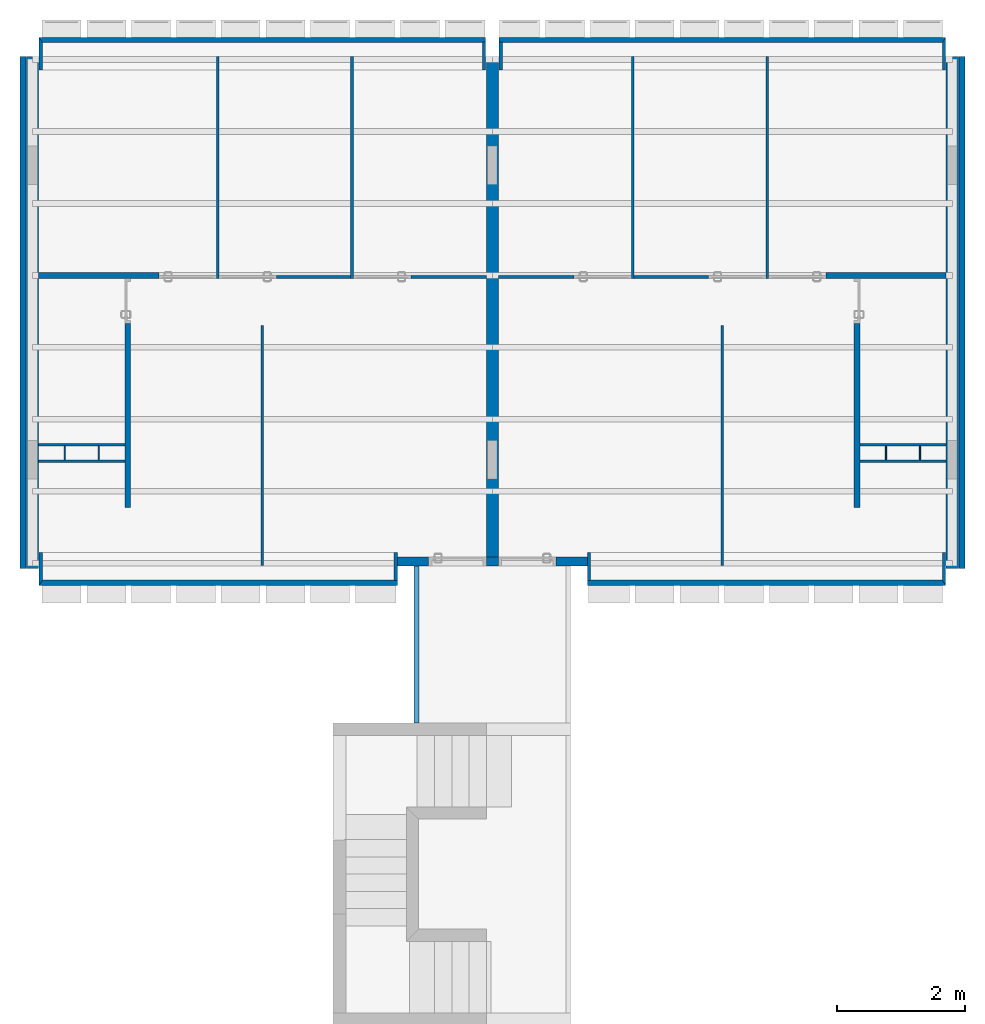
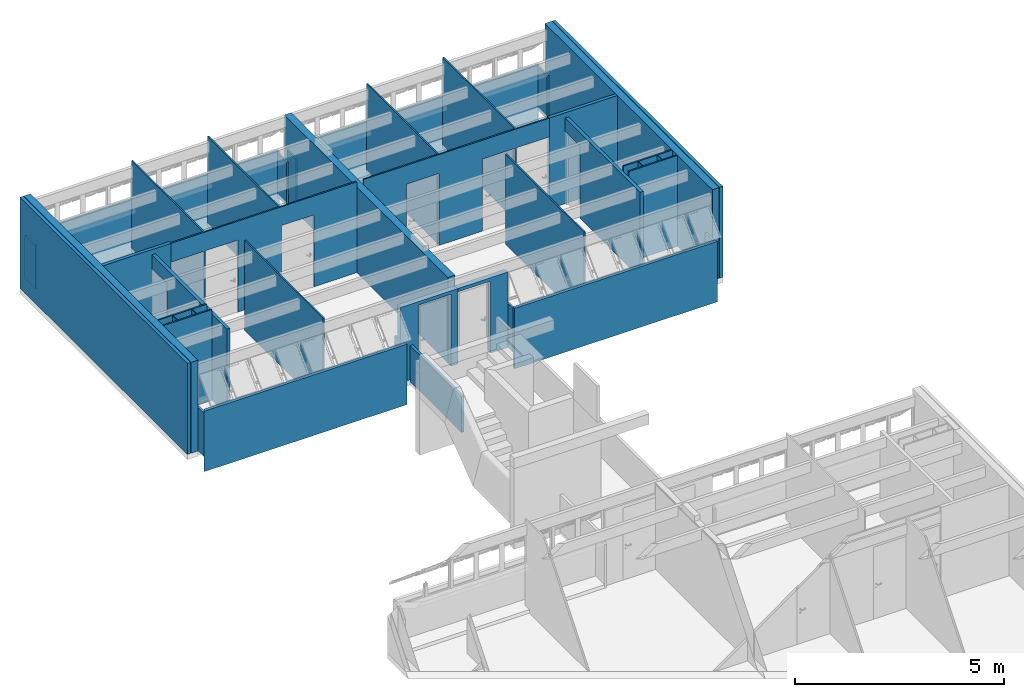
# One storey, part 3 of 22: 40 walls, 10 openings.
"""IFC2X3 building model written with IfcOpenShell, lengths in millimetres."""

from ifc_helpers import new_model, si_unit, direction, frame, frame_2d, origin_with_axes, origin_2d_with_axis, place, context, subcontext, project, spatial, polyline, rectangle, outline, extrude, material, layer, layer_set, layer_usage, type_object, element, save


model = new_model("IFC2X3")

# Units and contexts
model_context = context("Model", 3, precision=1e-05, world=origin_with_axes(), true_north=direction((0.0, 1.0)))
body_context = subcontext(model_context, "Body", "Model", "MODEL_VIEW")
ifc_project = project(units=[si_unit("LENGTHUNIT", "METRE", prefix="MILLI"), si_unit("AREAUNIT", "SQUARE_METRE"), si_unit("VOLUMEUNIT", "CUBIC_METRE"), si_unit("PLANEANGLEUNIT", "RADIAN"), si_unit("TIMEUNIT", "SECOND"), si_unit("MASSUNIT", "GRAM")], contexts=[model_context])

# Site, building, storey
site_placement = place(None, origin_with_axes())
site = spatial("IfcSite", under=ifc_project, at=site_placement, Name="Site", CompositionType="ELEMENT")
building_placement = place(site_placement, origin_with_axes())
building = spatial("IfcBuilding", under=site, at=building_placement, Name="Construção", CompositionType="COMPLEX")
storey_placement = place(building_placement, frame((0.0, 0.0, 2650.0), z_axis=(0.0, 0.0, 1.0), x_axis=(1.0, 0.0, 0.0)))
storey = spatial("IfcBuildingStorey", under=building, at=storey_placement, Name="Segundo Pavimento", CompositionType="COMPLEX", Elevation=2650.0)

# Walls
ifc_material_1 = material(Name="GENÉRICO - VEDAÇÃO EXTERNA")
ifc_layer_1 = layer(ifc_material_1, 190.0)
ifc_layer_set_1 = layer_set([ifc_layer_1], Name="GENÉRICO - VEDAÇÃO EXTERNA 190")
ifc_layer_usage_1 = layer_usage(ifc_layer_set_1, "AXIS2", "POSITIVE", 0.0)
wall_type_1 = type_object("IfcWallType", Name="GENÉRICO - VEDAÇÃO EXTERNA 190", PredefinedType="STANDARD", material=ifc_layer_set_1)
wall_1_placement = place(storey_placement, frame((7480.0, 18035.0, 0.0), z_axis=(0.0, 0.0, 1.0), x_axis=(0.0, 1.0, 0.0)))
element("IfcWallStandardCase", 1, at=wall_1_placement, inside=storey, type_object=wall_type_1, material=ifc_layer_usage_1, Name="CIRC2-PAREDE-029", context=body_context, shape_type="SweptSolid", body=[
    extrude(rectangle(XDim=7825.0, YDim=190.0, at=origin_2d_with_axis()), frame((3912.5, 95.0, 0.0), z_axis=(0.0, 0.0, 1.0), x_axis=(1.0, 0.0, 0.0)), (0.0, 0.0, 1.0), 2500.0),
])
ifc_layer_usage_2 = layer_usage(ifc_layer_set_1, "AXIS2", "POSITIVE", 0.0)
wall_2_placement = place(storey_placement, frame((290.0, 17860.0, 0.0), z_axis=(0.0, 0.0, 1.0), x_axis=(0.0, 1.0, 0.0)))
element("IfcWallStandardCase", 2, at=wall_2_placement, inside=storey, type_object=wall_type_1, material=ifc_layer_usage_2, Name="APTO7-PAREDE-013", context=body_context, shape_type="SweptSolid", body=[
    extrude(rectangle(XDim=8000.0, YDim=190.0, at=origin_2d_with_axis()), frame((4000.0, 95.0, 0.0), z_axis=(0.0, 0.0, 1.0), x_axis=(1.0, 0.0, 0.0)), (0.0, 0.0, 1.0), 2650.0),
])
ifc_layer_usage_3 = layer_usage(ifc_layer_set_1, "AXIS2", "POSITIVE", 0.0)
wall_3_placement = place(storey_placement, frame((14480.0, 25860.0, 0.0), z_axis=(0.0, 0.0, 1.0), x_axis=(0.0, -1.0, 0.0)))
element("IfcWallStandardCase", 3, at=wall_3_placement, inside=storey, type_object=wall_type_1, material=ifc_layer_usage_3, Name="APTO8-PAREDE-013", context=body_context, shape_type="SweptSolid", body=[
    extrude(rectangle(XDim=8000.0, YDim=190.0, at=frame_2d((0.0, 0.0), x_axis=(-1.0, 0.0))), frame((4000.0, 95.0, 0.0), z_axis=(0.0, 0.0, 1.0), x_axis=(1.0, 0.0, 0.0)), (0.0, 0.0, 1.0), 2650.0),
])
ifc_layer_2 = layer(ifc_material_1, 20.0)
ifc_layer_set_2 = layer_set([ifc_layer_2], Name="GENÉRICO - VEDAÇÃO EXTERNA 20")
ifc_layer_usage_4 = layer_usage(ifc_layer_set_2, "AXIS2", "POSITIVE", 0.0)
wall_type_2 = type_object("IfcWallType", Name="GENÉRICO - VEDAÇÃO EXTERNA 20", PredefinedType="STANDARD", material=ifc_layer_set_2)
wall_4_placement = place(storey_placement, frame((690.0, 19775.0, 0.0), z_axis=(0.0, 0.0, 1.0), x_axis=(0.0, -1.0, 0.0)))
element("IfcWallStandardCase", 4, at=wall_4_placement, inside=storey, type_object=wall_type_2, material=ifc_layer_usage_4, Name="APTO7-PAREDE-009", context=body_context, shape_type="SweptSolid", body=[
    extrude(rectangle(XDim=220.0, YDim=20.0, at=frame_2d((0.0, 0.0), x_axis=(-1.0, 0.0))), frame((110.0, 10.0, 0.0), z_axis=(0.0, 0.0, 1.0), x_axis=(1.0, 0.0, 0.0)), (0.0, 0.0, 1.0), 2650.0),
])
ifc_layer_usage_5 = layer_usage(ifc_layer_set_2, "AXIS2", "POSITIVE", 0.0)
wall_5_placement = place(storey_placement, frame((1240.0, 19555.0, 0.0), z_axis=(0.0, 0.0, 1.0), x_axis=(0.0, 1.0, 0.0)))
element("IfcWallStandardCase", 5, at=wall_5_placement, inside=storey, type_object=wall_type_2, material=ifc_layer_usage_5, Name="APTO7-PAREDE-008", context=body_context, shape_type="SweptSolid", body=[
    extrude(rectangle(XDim=220.0, YDim=20.0, at=origin_2d_with_axis()), frame((110.0, 10.0, 0.0), z_axis=(0.0, 0.0, 1.0), x_axis=(1.0, 0.0, 0.0)), (0.0, 0.0, 1.0), 2650.0),
])
ifc_layer_usage_6 = layer_usage(ifc_layer_set_2, "AXIS2", "POSITIVE", 0.0)
wall_6_placement = place(storey_placement, frame((14080.0, 19555.0, 0.0), z_axis=(0.0, 0.0, 1.0), x_axis=(0.0, 1.0, 0.0)))
element("IfcWallStandardCase", 6, at=wall_6_placement, inside=storey, type_object=wall_type_2, material=ifc_layer_usage_6, Name="APTO8-PAREDE-009", context=body_context, shape_type="SweptSolid", body=[
    extrude(rectangle(XDim=220.0, YDim=20.0, at=origin_2d_with_axis()), frame((110.0, 10.0, 0.0), z_axis=(0.0, 0.0, 1.0), x_axis=(1.0, 0.0, 0.0)), (0.0, 0.0, 1.0), 2650.0),
])
ifc_layer_usage_7 = layer_usage(ifc_layer_set_2, "AXIS2", "POSITIVE", 0.0)
wall_7_placement = place(storey_placement, frame((13530.0, 19775.0, 0.0), z_axis=(0.0, 0.0, 1.0), x_axis=(0.0, -1.0, 0.0)))
element("IfcWallStandardCase", 7, at=wall_7_placement, inside=storey, type_object=wall_type_2, material=ifc_layer_usage_7, Name="APTO8-PAREDE-008", context=body_context, shape_type="SweptSolid", body=[
    extrude(rectangle(XDim=220.0, YDim=20.0, at=frame_2d((0.0, 0.0), x_axis=(-1.0, 0.0))), frame((110.0, 10.0, 0.0), z_axis=(0.0, 0.0, 1.0), x_axis=(1.0, 0.0, 0.0)), (0.0, 0.0, 1.0), 2650.0),
])
ifc_layer_3 = layer(ifc_material_1, 75.0)
ifc_layer_set_3 = layer_set([ifc_layer_3], Name="GENÉRICO - VEDAÇÃO EXTERNA 75")
ifc_layer_usage_8 = layer_usage(ifc_layer_set_3, "AXIS2", "POSITIVE", 0.0)
wall_type_3 = type_object("IfcWallType", Name="GENÉRICO - VEDAÇÃO EXTERNA 75", PredefinedType="STANDARD", material=ifc_layer_set_3)
wall_8_placement = place(storey_placement, frame((6160.0, 17895.0, -50.0), z_axis=(0.0, 0.0, 1.0), x_axis=(0.0, -1.0, 0.0)))
element("IfcWallStandardCase", 8, at=wall_8_placement, inside=storey, type_object=wall_type_3, material=ifc_layer_usage_8, Name="CIRC2-PAREDE-028", context=body_context, shape_type="SweptSolid", body=[
    extrude(rectangle(XDim=2455.0, YDim=75.0, at=frame_2d((0.0, 0.0), x_axis=(-1.0, 0.0))), frame((1227.5, 37.5, 0.0), z_axis=(0.0, 0.0, 1.0), x_axis=(1.0, 0.0, 0.0)), (0.0, 0.0, 1.0), 1050.0),
])
ifc_layer_4 = layer(ifc_material_1, 40.0)
ifc_layer_set_4 = layer_set([ifc_layer_4], Name="GENÉRICO - VEDAÇÃO EXTERNA 40")
ifc_layer_usage_9 = layer_usage(ifc_layer_set_4, "AXIS2", "POSITIVE", 0.0)
wall_type_4 = type_object("IfcWallType", Name="GENÉRICO - VEDAÇÃO EXTERNA 40", PredefinedType="STANDARD", material=ifc_layer_set_4)
wall_9_placement = place(storey_placement, frame((3770.0, 21655.0, 0.0), z_axis=(0.0, 0.0, 1.0), x_axis=(0.0, -1.0, 0.0)))
element("IfcWallStandardCase", 9, at=wall_9_placement, inside=storey, type_object=wall_type_4, material=ifc_layer_usage_9, Name="APTO7-PAREDE-003", context=body_context, shape_type="SweptSolid", body=[
    extrude(rectangle(XDim=3750.0, YDim=40.0, at=frame_2d((0.0, 0.0), x_axis=(-1.0, 0.0))), frame((1875.0, 20.0, 0.0), z_axis=(0.0, 0.0, 1.0), x_axis=(1.0, 0.0, 0.0)), (0.0, 0.0, 1.0), 2620.0),
])
ifc_layer_usage_10 = layer_usage(ifc_layer_set_4, "AXIS2", "POSITIVE", 0.0)
wall_10_placement = place(storey_placement, frame((290.0, 19775.0, 0.0), z_axis=(0.0, 0.0, 1.0), x_axis=(1.0, 0.0, 0.0)))
element("IfcWallStandardCase", 10, at=wall_10_placement, inside=storey, type_object=wall_type_4, material=ifc_layer_usage_10, Name="APTO7-PAREDE-011", context=body_context, shape_type="SweptSolid", body=[
    extrude(rectangle(XDim=1350.0, YDim=40.0, at=origin_2d_with_axis()), frame((675.0, 20.0, 0.0), z_axis=(0.0, 0.0, 1.0), x_axis=(1.0, 0.0, 0.0)), (0.0, 0.0, 1.0), 2650.0),
])
ifc_layer_usage_11 = layer_usage(ifc_layer_set_4, "AXIS2", "POSITIVE", 0.0)
wall_11_placement = place(storey_placement, frame((5210.0, 22395.0, 0.0), z_axis=(0.0, 0.0, 1.0), x_axis=(0.0, 1.0, 0.0)))
element("IfcWallStandardCase", 11, at=wall_11_placement, inside=storey, type_object=wall_type_4, material=ifc_layer_usage_11, Name="APTO7-PAREDE-005", context=body_context, shape_type="SweptSolid", body=[
    extrude(rectangle(XDim=3465.0, YDim=40.0, at=origin_2d_with_axis()), frame((1732.5, 20.0, 0.0), z_axis=(0.0, 0.0, 1.0), x_axis=(1.0, 0.0, 0.0)), (0.0, 0.0, 1.0), 2620.0),
])
ifc_layer_usage_12 = layer_usage(ifc_layer_set_4, "AXIS2", "POSITIVE", 0.0)
wall_12_placement = place(storey_placement, frame((1640.0, 19555.0, 0.0), z_axis=(0.0, 0.0, 1.0), x_axis=(-1.0, 0.0, 0.0)))
element("IfcWallStandardCase", 12, at=wall_12_placement, inside=storey, type_object=wall_type_4, material=ifc_layer_usage_12, Name="APTO7-PAREDE-010", context=body_context, shape_type="SweptSolid", body=[
    extrude(rectangle(XDim=1350.0, YDim=40.0, at=frame_2d((0.0, 0.0), x_axis=(-1.0, 0.0))), frame((675.0, 20.0, 0.0), z_axis=(0.0, 0.0, 1.0), x_axis=(1.0, 0.0, 0.0)), (0.0, 0.0, 1.0), 2650.0),
])
ifc_layer_usage_13 = layer_usage(ifc_layer_set_4, "AXIS2", "POSITIVE", 0.0)
wall_13_placement = place(storey_placement, frame((3110.0, 22395.0, 0.0), z_axis=(0.0, 0.0, 1.0), x_axis=(0.0, 1.0, 0.0)))
element("IfcWallStandardCase", 13, at=wall_13_placement, inside=storey, type_object=wall_type_4, material=ifc_layer_usage_13, Name="APTO7-PAREDE-007", context=body_context, shape_type="SweptSolid", body=[
    extrude(rectangle(XDim=3465.0, YDim=40.0, at=origin_2d_with_axis()), frame((1732.5, 20.0, 0.0), z_axis=(0.0, 0.0, 1.0), x_axis=(1.0, 0.0, 0.0)), (0.0, 0.0, 1.0), 2650.0),
])

# Wall, openings
ifc_layer_usage_14 = layer_usage(ifc_layer_set_4, "AXIS2", "POSITIVE", 0.0)
wall_14_placement = place(storey_placement, frame((2170.0, 22394.78043329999, 0.0), z_axis=(0.0, 0.0, 1.0), x_axis=(0.9999999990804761, 4.288412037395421e-05, 0.0)))
wall_14 = element("IfcWallStandardCase", 14, at=wall_14_placement, inside=storey, type_object=wall_type_4, material=ifc_layer_usage_14, Name="APTO7-PAREDE-006", context=body_context, shape_type="SweptSolid", body=[
    extrude(outline(polyline([(-2560.000216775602, -20.00000000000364), (-2559.999359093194, 19.99999999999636), (2559.999787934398, 19.99999999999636), (2559.999787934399, -20.00000000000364), (-2560.000216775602, -20.00000000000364)])), frame((2560.000216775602, 20.0, 0.0), z_axis=(0.0, 0.0, 1.0), x_axis=(1.0, 0.0, 0.0)), (0.0, 0.0, 1.0), 2650.0),
])
opening_1_placement = place(wall_14_placement, frame((1840.000004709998, 40.0, 0.0), z_axis=(0.0, 0.0, 1.0), x_axis=(-1.0, 0.0, 0.0)))
element("IfcOpeningElement", 15, at=opening_1_placement, cuts=wall_14, ObjectType="Opening", context=body_context, shape_type="SweptSolid", body=[
    extrude(outline(polyline([(450.0, 1050.0), (450.0, -1050.0), (-450.0, -1050.0), (-450.0, 1050.0), (450.0, 1050.0)])), frame((450.0, 1.364242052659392e-12, 1050.000000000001), z_axis=(0.0, 1.0, 0.0), x_axis=(1.0, 0.0, 0.0)), (0.0, 0.0, 1.0), 120.0),
])
opening_2_placement = place(wall_14_placement, frame((900.0000047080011, 40.0, 0.0), z_axis=(0.0, 0.0, 1.0), x_axis=(-1.0, 0.0, 0.0)))
element("IfcOpeningElement", 16, at=opening_2_placement, cuts=wall_14, ObjectType="Opening", context=body_context, shape_type="SweptSolid", body=[
    extrude(outline(polyline([(-450.0, -1050.0), (-450.0, 1050.0), (450.0, 1050.0), (450.0, -1050.0), (-450.0, -1050.0)])), frame((450.0, 1.364242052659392e-12, 1050.000000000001), z_axis=(0.0, 1.0, 0.0), x_axis=(1.0, 0.0, 0.0)), (0.0, 0.0, 1.0), 120.0),
])
opening_3_placement = place(wall_14_placement, frame((3940.00000471, 40.0, 0.0), z_axis=(0.0, 0.0, 1.0), x_axis=(-1.0, 0.0, 0.0)))
element("IfcOpeningElement", 17, at=opening_3_placement, cuts=wall_14, ObjectType="Opening", context=body_context, shape_type="SweptSolid", body=[
    extrude(outline(polyline([(450.0, 1050.0), (450.0, -1050.0), (-450.0, -1050.0), (-450.0, 1050.0), (450.0, 1050.0)])), frame((450.0, 1.364242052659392e-12, 1050.000000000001), z_axis=(0.0, 1.0, 0.0), x_axis=(1.0, 0.0, 0.0)), (0.0, 0.0, 1.0), 120.0),
])

# Walls
ifc_layer_usage_15 = layer_usage(ifc_layer_set_4, "AXIS2", "POSITIVE", 0.0)
wall_15_placement = place(storey_placement, frame((11000.0, 17905.0, 0.0), z_axis=(0.0, 0.0, 1.0), x_axis=(0.0, 1.0, 0.0)))
element("IfcWallStandardCase", 18, at=wall_15_placement, inside=storey, type_object=wall_type_4, material=ifc_layer_usage_15, Name="APTO8-PAREDE-003", context=body_context, shape_type="SweptSolid", body=[
    extrude(rectangle(XDim=3750.0, YDim=40.0, at=origin_2d_with_axis()), frame((1875.0, 20.0, 0.0), z_axis=(0.0, 0.0, 1.0), x_axis=(1.0, 0.0, 0.0)), (0.0, 0.0, 1.0), 2620.0),
])
ifc_layer_usage_16 = layer_usage(ifc_layer_set_4, "AXIS2", "POSITIVE", 0.0)
wall_16_placement = place(storey_placement, frame((13130.0, 19775.0, 0.0), z_axis=(0.0, 0.0, 1.0), x_axis=(1.0, 0.0, 0.0)))
element("IfcWallStandardCase", 19, at=wall_16_placement, inside=storey, type_object=wall_type_4, material=ifc_layer_usage_16, Name="APTO8-PAREDE-011", context=body_context, shape_type="SweptSolid", body=[
    extrude(rectangle(XDim=1350.0, YDim=40.0, at=origin_2d_with_axis()), frame((675.0, 20.0, 0.0), z_axis=(0.0, 0.0, 1.0), x_axis=(1.0, 0.0, 0.0)), (0.0, 0.0, 1.0), 2650.0),
])
ifc_layer_usage_17 = layer_usage(ifc_layer_set_4, "AXIS2", "POSITIVE", 0.0)
wall_17_placement = place(storey_placement, frame((9560.0, 25860.0, 0.0), z_axis=(0.0, 0.0, 1.0), x_axis=(0.0, -1.0, 0.0)))
element("IfcWallStandardCase", 20, at=wall_17_placement, inside=storey, type_object=wall_type_4, material=ifc_layer_usage_17, Name="APTO8-PAREDE-005", context=body_context, shape_type="SweptSolid", body=[
    extrude(rectangle(XDim=3465.0, YDim=40.0, at=frame_2d((0.0, 0.0), x_axis=(-1.0, 0.0))), frame((1732.5, 20.0, 0.0), z_axis=(0.0, 0.0, 1.0), x_axis=(1.0, 0.0, 0.0)), (0.0, 0.0, 1.0), 2620.0),
])
ifc_layer_usage_18 = layer_usage(ifc_layer_set_4, "AXIS2", "POSITIVE", 0.0)
wall_18_placement = place(storey_placement, frame((14480.0, 19555.0, 0.0), z_axis=(0.0, 0.0, 1.0), x_axis=(-1.0, 0.0, 0.0)))
element("IfcWallStandardCase", 21, at=wall_18_placement, inside=storey, type_object=wall_type_4, material=ifc_layer_usage_18, Name="APTO8-PAREDE-010", context=body_context, shape_type="SweptSolid", body=[
    extrude(rectangle(XDim=1350.0, YDim=40.0, at=frame_2d((0.0, 0.0), x_axis=(-1.0, 0.0))), frame((675.0, 20.0, 0.0), z_axis=(0.0, 0.0, 1.0), x_axis=(1.0, 0.0, 0.0)), (0.0, 0.0, 1.0), 2650.0),
])
ifc_layer_usage_19 = layer_usage(ifc_layer_set_4, "AXIS2", "POSITIVE", 0.0)
wall_19_placement = place(storey_placement, frame((11660.0, 25860.0, 0.0), z_axis=(0.0, 0.0, 1.0), x_axis=(0.0, -1.0, 0.0)))
element("IfcWallStandardCase", 22, at=wall_19_placement, inside=storey, type_object=wall_type_4, material=ifc_layer_usage_19, Name="APTO8-PAREDE-007", context=body_context, shape_type="SweptSolid", body=[
    extrude(rectangle(XDim=3465.0, YDim=40.0, at=frame_2d((0.0, 0.0), x_axis=(-1.0, 0.0))), frame((1732.5, 20.0, 0.0), z_axis=(0.0, 0.0, 1.0), x_axis=(1.0, 0.0, 0.0)), (0.0, 0.0, 1.0), 2650.0),
])

# Wall, openings
ifc_layer_usage_20 = layer_usage(ifc_layer_set_4, "AXIS2", "POSITIVE", 0.0)
wall_20_placement = place(storey_placement, frame((7479.998284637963, 22395.00000007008, 0.0), z_axis=(0.0, 0.0, 1.0), x_axis=(0.9999999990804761, -4.288412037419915e-05, 0.0)))
wall_20 = element("IfcWallStandardCase", 23, at=wall_20_placement, inside=storey, type_object=wall_type_4, material=ifc_layer_usage_20, Name="APTO8-PAREDE-006", context=body_context, shape_type="SweptSolid", body=[
    extrude(outline(polyline([(-2560.001074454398, 19.99999999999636), (2559.999787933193, 19.99999999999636), (2560.000645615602, -20.00000000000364), (-2559.999359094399, -20.00000000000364), (-2560.001074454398, 19.99999999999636)])), frame((2560.001074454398, 20.00000000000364, 0.0), z_axis=(0.0, 0.0, 1.0), x_axis=(1.0, 0.0, 0.0)), (0.0, 0.0, 1.0), 2650.0),
])
opening_4_placement = place(wall_20_placement, frame((4180.00171536, 40.0, 0.0), z_axis=(0.0, 0.0, 1.0), x_axis=(-1.0, 0.0, 0.0)))
element("IfcOpeningElement", 24, at=opening_4_placement, cuts=wall_20, ObjectType="Opening", context=body_context, shape_type="SweptSolid", body=[
    extrude(outline(polyline([(-450.0, -1050.0), (-450.0, 1050.0), (450.0, 1050.0), (450.0, -1050.0), (-450.0, -1050.0)])), frame((450.0, 1.364242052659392e-12, 1050.000000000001), z_axis=(0.0, 1.0, 0.0), x_axis=(1.0, 0.0, 0.0)), (0.0, 0.0, 1.0), 120.0),
])
opening_5_placement = place(wall_20_placement, frame((5120.000862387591, 40.0, 0.0), z_axis=(0.0, 0.0, 1.0), x_axis=(-1.0, 0.0, 0.0)))
element("IfcOpeningElement", 25, at=opening_5_placement, cuts=wall_20, ObjectType="Opening", context=body_context, shape_type="SweptSolid", body=[
    extrude(outline(polyline([(450.0, 1050.0), (450.0, -1050.0), (-450.0, -1050.0), (-450.0, 1050.0), (450.0, 1050.0)])), frame((449.9991470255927, 0.0, 1050.0), z_axis=(0.0, 1.0, 0.0), x_axis=(1.0, 0.0, 0.0)), (0.0, 0.0, 1.0), 120.0),
])
opening_6_placement = place(wall_20_placement, frame((2080.001715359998, 40.0, 0.0), z_axis=(0.0, 0.0, 1.0), x_axis=(-1.0, 0.0, 0.0)))
element("IfcOpeningElement", 26, at=opening_6_placement, cuts=wall_20, ObjectType="Opening", context=body_context, shape_type="SweptSolid", body=[
    extrude(outline(polyline([(-450.0, -1050.0), (-450.0, 1050.0), (450.0, 1050.0), (450.0, -1050.0), (-450.0, -1050.0)])), frame((450.0, 1.364242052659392e-12, 1050.000000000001), z_axis=(0.0, 1.0, 0.0), x_axis=(1.0, 0.0, 0.0)), (0.0, 0.0, 1.0), 120.0),
])

# Walls
ifc_material_2 = material(Name="Concreto Armado Moldado in Loco - Estrutural")
ifc_layer_5 = layer(ifc_material_2, 80.0)
ifc_layer_set_5 = layer_set([ifc_layer_5], Name="Concreto Armado Moldado in Loco - Estrutural 80")
ifc_layer_usage_21 = layer_usage(ifc_layer_set_5, "AXIS2", "POSITIVE", 0.0)
wall_type_5 = type_object("IfcWallType", Name="Concreto Armado Moldado in Loco - Estrutural 80", PredefinedType="STANDARD", material=ifc_layer_set_5)
wall_21_placement = place(storey_placement, frame((300.0, 17595.0000013, -450.0), z_axis=(0.0, 0.0, 1.0), x_axis=(1.0, 0.0, 0.0)))
element("IfcWallStandardCase", 27, at=wall_21_placement, inside=storey, type_object=wall_type_5, material=ifc_layer_usage_21, Name="APTO7-PAREDE-017", context=body_context, shape_type="SweptSolid", body=[
    extrude(outline(polyline([(-2812.5, -40.0), (-2762.5, 40.0), (2787.5, 40.0), (2787.5, -40.0), (-2812.5, -40.0)])), frame((2812.5, 40.0, 0.0), z_axis=(0.0, 0.0, 1.0), x_axis=(1.0, 0.0, 0.0)), (0.0, 0.0, 1.0), 1765.0),
])
ifc_layer_usage_22 = layer_usage(ifc_layer_set_5, "AXIS2", "POSITIVE", 0.0)
wall_22_placement = place(storey_placement, frame((7280.0, 26160.0, -450.0), z_axis=(0.0, 0.0, 1.0), x_axis=(-1.0, 0.0, 0.0)))
element("IfcWallStandardCase", 28, at=wall_22_placement, inside=storey, type_object=wall_type_5, material=ifc_layer_usage_22, Name="APTO7-PAREDE-015", context=body_context, shape_type="SweptSolid", body=[
    extrude(outline(polyline([(3452.5, 40.0), (3502.5, -40.0), (-3477.5, -40.0), (-3477.5, 40.0), (3452.5, 40.0)])), frame((3477.5, 40.0, 0.0), z_axis=(0.0, 0.0, 1.0), x_axis=(1.0, 0.0, 0.0)), (0.0, 0.0, 1.0), 1765.0),
])
ifc_layer_usage_23 = layer_usage(ifc_layer_set_5, "AXIS2", "POSITIVE", 0.0)
wall_23_placement = place(storey_placement, frame((8870.0, 17595.0000013, -450.0), z_axis=(0.0, 0.0, 1.0), x_axis=(1.0, 0.0, 0.0)))
element("IfcWallStandardCase", 29, at=wall_23_placement, inside=storey, type_object=wall_type_5, material=ifc_layer_usage_23, Name="APTO8-PAREDE-017", context=body_context, shape_type="SweptSolid", body=[
    extrude(outline(polyline([(2762.5, 40.0), (2812.5, -40.0), (-2787.5, -40.0), (-2787.5, 40.0), (2762.5, 40.0)])), frame((2787.5, 40.0, 0.0), z_axis=(0.0, 0.0, 1.0), x_axis=(1.0, 0.0, 0.0)), (0.0, 0.0, 1.0), 1765.0),
])
ifc_layer_usage_24 = layer_usage(ifc_layer_set_5, "AXIS2", "POSITIVE", 0.0)
wall_24_placement = place(storey_placement, frame((14470.0, 26160.0, -450.0), z_axis=(0.0, 0.0, 1.0), x_axis=(-1.0, 0.0, 0.0)))
element("IfcWallStandardCase", 30, at=wall_24_placement, inside=storey, type_object=wall_type_5, material=ifc_layer_usage_24, Name="APTO8-PAREDE-015", context=body_context, shape_type="SweptSolid", body=[
    extrude(outline(polyline([(-3502.5, -40.0), (-3452.5, 40.0), (3477.5, 40.0), (3477.5, -40.0), (-3502.5, -40.0)])), frame((3502.5, 40.0, 0.0), z_axis=(0.0, 0.0, 1.0), x_axis=(1.0, 0.0, 0.0)), (0.0, 0.0, 1.0), 1765.0),
])
ifc_layer_6 = layer(ifc_material_1, 90.0)
ifc_layer_set_6 = layer_set([ifc_layer_6], Name="GENÉRICO - VEDAÇÃO EXTERNA 90")
ifc_layer_usage_25 = layer_usage(ifc_layer_set_6, "AXIS2", "POSITIVE", 0.0)
wall_type_6 = type_object("IfcWallType", Name="GENÉRICO - VEDAÇÃO EXTERNA 90", PredefinedType="STANDARD", material=ifc_layer_set_6)
wall_25_placement = place(storey_placement, frame((290.0, 22394.7804333, 0.0), z_axis=(0.0, 0.0, 1.0), x_axis=(1.0, 0.0, 0.0)))
element("IfcWallStandardCase", 31, at=wall_25_placement, inside=storey, type_object=wall_type_6, material=ifc_layer_usage_25, Name="APTO7-PAREDE-019", context=body_context, shape_type="SweptSolid", body=[
    extrude(outline(polyline([(-939.9995175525, -45.0), (-939.9995175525, 45.0), (939.9985526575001, 45.0), (940.0004824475, -45.0), (-939.9995175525, -45.0)])), frame((939.9995175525, 45.0, 0.0), z_axis=(0.0, 0.0, 1.0), x_axis=(1.0, 0.0, 0.0)), (0.0, 0.0, 1.0), 2650.0),
])
ifc_layer_usage_26 = layer_usage(ifc_layer_set_6, "AXIS2", "POSITIVE", 0.0)
wall_26_placement = place(storey_placement, frame((90.0, 17860.0, 0.0), z_axis=(0.0, 0.0, 1.0), x_axis=(0.0, 1.0, 0.0)))
element("IfcWallStandardCase", 32, at=wall_26_placement, inside=storey, type_object=wall_type_6, material=ifc_layer_usage_26, Name="APTO7-PAREDE-014", context=body_context, shape_type="SweptSolid", body=[
    extrude(rectangle(XDim=8000.0, YDim=90.0, at=origin_2d_with_axis()), frame((4000.0, 45.0, 0.0), z_axis=(0.0, 0.0, 1.0), x_axis=(1.0, 0.0, 0.0)), (0.0, 0.0, 1.0), 2650.0),
])

# Wall, opening
ifc_layer_usage_27 = layer_usage(ifc_layer_set_6, "AXIS2", "POSITIVE", 0.0)
wall_27_placement = place(storey_placement, frame((1730.0, 18814.7804333, 0.0), z_axis=(0.0, 0.0, 1.0), x_axis=(0.0, 1.0, 0.0)))
wall_27 = element("IfcWallStandardCase", 33, at=wall_27_placement, inside=storey, type_object=wall_type_6, material=ifc_layer_usage_27, Name="APTO7-PAREDE-012", context=body_context, shape_type="SweptSolid", body=[
    extrude(rectangle(XDim=3580.0, YDim=90.0, at=origin_2d_with_axis()), frame((1790.0, 45.0, 0.0), z_axis=(0.0, 0.0, 1.0), x_axis=(1.0, 0.0, 0.0)), (0.0, 0.0, 1.0), 2500.0),
])
opening_7_placement = place(wall_27_placement, frame((3580.0, 90.0, 0.0), z_axis=(0.0, 0.0, 1.0), x_axis=(-1.0, 0.0, 0.0)))
element("IfcOpeningElement", 34, at=opening_7_placement, cuts=wall_27, ObjectType="Opening", context=body_context, shape_type="SweptSolid", body=[
    extrude(outline(polyline([(-355.0, -1050.0), (-355.0, 1050.0), (355.0, 1050.0), (355.0, -1050.0), (-355.0, -1050.0)])), frame((355.0, 0.0, 1050.0), z_axis=(0.0, 1.0, 0.0), x_axis=(1.0, 0.0, 0.0)), (0.0, 0.0, 1.0), 270.0),
])

# Walls
ifc_layer_usage_28 = layer_usage(ifc_layer_set_6, "AXIS2", "POSITIVE", 0.0)
wall_28_placement = place(storey_placement, frame((12600.0, 22394.7804333, 0.0), z_axis=(0.0, 0.0, 1.0), x_axis=(1.0, 0.0, 0.0)))
element("IfcWallStandardCase", 35, at=wall_28_placement, inside=storey, type_object=wall_type_6, material=ifc_layer_usage_28, Name="APTO8-PAREDE-019", context=body_context, shape_type="SweptSolid", body=[
    extrude(outline(polyline([(939.9995175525, 45.0), (939.9995175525, -45.0), (-940.0004824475, -45.0), (-939.9985526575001, 45.0), (939.9995175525, 45.0)])), frame((940.0004824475, 45.0, 0.0), z_axis=(0.0, 0.0, 1.0), x_axis=(1.0, 0.0, 0.0)), (0.0, 0.0, 1.0), 2650.0),
])
ifc_layer_usage_29 = layer_usage(ifc_layer_set_6, "AXIS2", "POSITIVE", 0.0)
wall_29_placement = place(storey_placement, frame((14680.0, 25860.0, 0.0), z_axis=(0.0, 0.0, 1.0), x_axis=(0.0, -1.0, 0.0)))
element("IfcWallStandardCase", 36, at=wall_29_placement, inside=storey, type_object=wall_type_6, material=ifc_layer_usage_29, Name="APTO8-PAREDE-014", context=body_context, shape_type="SweptSolid", body=[
    extrude(rectangle(XDim=8000.0, YDim=90.0, at=frame_2d((0.0, 0.0), x_axis=(-1.0, 0.0))), frame((4000.0, 45.0, 0.0), z_axis=(0.0, 0.0, 1.0), x_axis=(1.0, 0.0, 0.0)), (0.0, 0.0, 1.0), 2650.0),
])

# Wall, opening
ifc_layer_usage_30 = layer_usage(ifc_layer_set_6, "AXIS2", "POSITIVE", 0.0)
wall_30_placement = place(storey_placement, frame((13040.0, 22394.7804333, 0.0), z_axis=(0.0, 0.0, 1.0), x_axis=(0.0, -1.0, 0.0)))
wall_30 = element("IfcWallStandardCase", 37, at=wall_30_placement, inside=storey, type_object=wall_type_6, material=ifc_layer_usage_30, Name="APTO8-PAREDE-012", context=body_context, shape_type="SweptSolid", body=[
    extrude(rectangle(XDim=3580.0, YDim=90.0, at=frame_2d((0.0, 0.0), x_axis=(-1.0, 0.0))), frame((1790.0, 45.0, 0.0), z_axis=(0.0, 0.0, 1.0), x_axis=(1.0, 0.0, 0.0)), (0.0, 0.0, 1.0), 2500.0),
])
opening_8_placement = place(wall_30_placement, frame((710.0, 90.0, 0.0), z_axis=(0.0, 0.0, 1.0), x_axis=(-1.0, 0.0, 0.0)))
element("IfcOpeningElement", 38, at=opening_8_placement, cuts=wall_30, ObjectType="Opening", context=body_context, shape_type="SweptSolid", body=[
    extrude(outline(polyline([(355.0, 1050.0), (355.0, -1050.0), (-355.0, -1050.0), (-355.0, 1050.0), (355.0, 1050.0)])), frame((355.0, 0.0, 1050.0), z_axis=(0.0, 1.0, 0.0), x_axis=(1.0, 0.0, 0.0)), (0.0, 0.0, 1.0), 270.0),
])

# Walls
ifc_layer_7 = layer(ifc_material_2, 50.0)
ifc_layer_set_7 = layer_set([ifc_layer_7], Name="Concreto Armado Moldado in Loco - Estrutural 50")
ifc_layer_usage_31 = layer_usage(ifc_layer_set_7, "AXIS2", "POSITIVE", 0.0)
wall_type_7 = type_object("IfcWallType", Name="Concreto Armado Moldado in Loco - Estrutural 50", PredefinedType="STANDARD", material=ifc_layer_set_7)
wall_31_placement = place(storey_placement, frame((5900.0, 17670.0000013, 0.0), z_axis=(0.0, 0.0, 1.0), x_axis=(0.0, 1.0, 0.0)))
element("IfcWallStandardCase", 39, at=wall_31_placement, inside=storey, type_object=wall_type_7, material=ifc_layer_usage_31, Name="APTO7-PAREDE-016", context=body_context, shape_type="SweptSolid", body=[
    extrude(rectangle(XDim=435.0, YDim=50.0, at=origin_2d_with_axis()), frame((217.5, 25.0, 0.0), z_axis=(0.0, 0.0, 1.0), x_axis=(1.0, 0.0, 0.0)), (0.0, 0.0, 1.0), 1270.0),
])
ifc_layer_usage_32 = layer_usage(ifc_layer_set_7, "AXIS2", "POSITIVE", 0.0)
wall_32_placement = place(storey_placement, frame((350.0, 17595.0000013, 0.0), z_axis=(0.0, 0.0, 1.0), x_axis=(0.0, 1.0, 0.0)))
element("IfcWallStandardCase", 40, at=wall_32_placement, inside=storey, type_object=wall_type_7, material=ifc_layer_usage_32, Name="APTO7-PAREDE-018", context=body_context, shape_type="SweptSolid", body=[
    extrude(outline(polyline([(235.0, 25.0), (235.0, -25.0), (-195.0, -25.0), (-275.0, 25.0), (235.0, 25.0)])), frame((275.0, 25.0, 0.0), z_axis=(0.0, 0.0, 1.0), x_axis=(1.0, 0.0, 0.0)), (0.0, 0.0, 1.0), 1270.0),
])
ifc_layer_usage_33 = layer_usage(ifc_layer_set_7, "AXIS2", "POSITIVE", 0.0)
wall_33_placement = place(storey_placement, frame((350.0, 25650.0, 0.0), z_axis=(0.0, 0.0, 1.0), x_axis=(0.0, 1.0, 0.0)))
element("IfcWallStandardCase", 41, at=wall_33_placement, inside=storey, type_object=wall_type_7, material=ifc_layer_usage_33, Name="APTO7-PAREDE-002", context=body_context, shape_type="SweptSolid", body=[
    extrude(outline(polyline([(-235.0, -25.0), (-235.0, 25.0), (275.0, 25.0), (195.0, -25.0), (-235.0, -25.0)])), frame((235.0, 25.0, 0.0), z_axis=(0.0, 0.0, 1.0), x_axis=(1.0, 0.0, 0.0)), (0.0, 0.0, 1.0), 1270.0),
])
ifc_layer_usage_34 = layer_usage(ifc_layer_set_7, "AXIS2", "POSITIVE", 0.0)
wall_34_placement = place(storey_placement, frame((7280.0, 25650.0, 0.0), z_axis=(0.0, 0.0, 1.0), x_axis=(0.0, 1.0, 0.0)))
element("IfcWallStandardCase", 42, at=wall_34_placement, inside=storey, type_object=wall_type_7, material=ifc_layer_usage_34, Name="APTO7-PAREDE-001", context=body_context, shape_type="SweptSolid", body=[
    extrude(rectangle(XDim=435.0, YDim=50.0, at=origin_2d_with_axis()), frame((217.5, 25.0, 0.0), z_axis=(0.0, 0.0, 1.0), x_axis=(1.0, 0.0, 0.0)), (0.0, 0.0, 1.0), 1270.0),
])
ifc_layer_usage_35 = layer_usage(ifc_layer_set_7, "AXIS2", "POSITIVE", 0.0)
wall_35_placement = place(storey_placement, frame((8870.0, 18105.0000013, 0.0), z_axis=(0.0, 0.0, 1.0), x_axis=(0.0, -1.0, 0.0)))
element("IfcWallStandardCase", 43, at=wall_35_placement, inside=storey, type_object=wall_type_7, material=ifc_layer_usage_35, Name="APTO8-PAREDE-016", context=body_context, shape_type="SweptSolid", body=[
    extrude(rectangle(XDim=435.0, YDim=50.0, at=frame_2d((0.0, 0.0), x_axis=(-1.0, 0.0))), frame((217.5, 25.0, 0.0), z_axis=(0.0, 0.0, 1.0), x_axis=(1.0, 0.0, 0.0)), (0.0, 0.0, 1.0), 1270.0),
])
ifc_layer_usage_36 = layer_usage(ifc_layer_set_7, "AXIS2", "POSITIVE", 0.0)
wall_36_placement = place(storey_placement, frame((14420.0, 18105.0000013, 0.0), z_axis=(0.0, 0.0, 1.0), x_axis=(0.0, -1.0, 0.0)))
element("IfcWallStandardCase", 44, at=wall_36_placement, inside=storey, type_object=wall_type_7, material=ifc_layer_usage_36, Name="APTO8-PAREDE-018", context=body_context, shape_type="SweptSolid", body=[
    extrude(outline(polyline([(-235.0, -25.0), (-235.0, 25.0), (275.0, 25.0), (195.0, -25.0), (-235.0, -25.0)])), frame((235.0, 25.0, 0.0), z_axis=(0.0, 0.0, 1.0), x_axis=(1.0, 0.0, 0.0)), (0.0, 0.0, 1.0), 1270.0),
])
ifc_layer_usage_37 = layer_usage(ifc_layer_set_7, "AXIS2", "POSITIVE", 0.0)
wall_37_placement = place(storey_placement, frame((14420.0, 26160.0, 0.0), z_axis=(0.0, 0.0, 1.0), x_axis=(0.0, -1.0, 0.0)))
element("IfcWallStandardCase", 45, at=wall_37_placement, inside=storey, type_object=wall_type_7, material=ifc_layer_usage_37, Name="APTO8-PAREDE-002", context=body_context, shape_type="SweptSolid", body=[
    extrude(outline(polyline([(235.0, 25.0), (235.0, -25.0), (-195.0, -25.0), (-275.0, 25.0), (235.0, 25.0)])), frame((275.0, 25.0, 0.0), z_axis=(0.0, 0.0, 1.0), x_axis=(1.0, 0.0, 0.0)), (0.0, 0.0, 1.0), 1270.0),
])
ifc_layer_usage_38 = layer_usage(ifc_layer_set_7, "AXIS2", "POSITIVE", 0.0)
wall_38_placement = place(storey_placement, frame((7490.0, 26085.0, 0.0), z_axis=(0.0, 0.0, 1.0), x_axis=(0.0, -1.0, 0.0)))
element("IfcWallStandardCase", 46, at=wall_38_placement, inside=storey, type_object=wall_type_7, material=ifc_layer_usage_38, Name="APTO8-PAREDE-001", context=body_context, shape_type="SweptSolid", body=[
    extrude(rectangle(XDim=435.0, YDim=50.0, at=frame_2d((0.0, 0.0), x_axis=(-1.0, 0.0))), frame((217.5, 25.0, 0.0), z_axis=(0.0, 0.0, 1.0), x_axis=(1.0, 0.0, 0.0)), (0.0, 0.0, 1.0), 1270.0),
])

# Wall, opening
ifc_layer_8 = layer(ifc_material_1, 140.0)
ifc_layer_set_8 = layer_set([ifc_layer_8], Name="GENÉRICO - VEDAÇÃO EXTERNA 140")
ifc_layer_usage_39 = layer_usage(ifc_layer_set_8, "AXIS2", "POSITIVE", 0.0)
wall_type_8 = type_object("IfcWallType", Name="GENÉRICO - VEDAÇÃO EXTERNA 140", PredefinedType="STANDARD", material=ifc_layer_set_8)
wall_39_placement = place(storey_placement, frame((7480.0, 18035.0, 0.0), z_axis=(0.0, 0.0, 1.0), x_axis=(-1.0, 0.0, 0.0)))
wall_39 = element("IfcWallStandardCase", 47, at=wall_39_placement, inside=storey, type_object=wall_type_8, material=ifc_layer_usage_39, Name="APTO7-PAREDE-004", context=body_context, shape_type="SweptSolid", body=[
    extrude(rectangle(XDim=1580.0, YDim=140.0, at=frame_2d((0.0, 0.0), x_axis=(-1.0, 0.0))), frame((790.0, 70.0, 0.0), z_axis=(0.0, 0.0, 1.0), x_axis=(1.0, 0.0, 0.0)), (0.0, 0.0, 1.0), 2200.0),
])
opening_9_placement = place(wall_39_placement, frame((190.0, 0.0, 0.0), z_axis=(0.0, 0.0, 1.0), x_axis=(1.0, 0.0, 0.0)))
element("IfcOpeningElement", 48, at=opening_9_placement, cuts=wall_39, ObjectType="Opening", context=body_context, shape_type="SweptSolid", body=[
    extrude(outline(polyline([(-450.0, -1050.0), (-450.0, 1050.0), (450.0, 1050.0), (450.0, -1050.0), (-450.0, -1050.0)])), frame((450.0, -140.0, 1050.0), z_axis=(0.0, 1.0, 0.0), x_axis=(1.0, 0.0, 0.0)), (0.0, 0.0, 1.0), 420.0),
])

ifc_layer_usage_40 = layer_usage(ifc_layer_set_8, "AXIS2", "POSITIVE", 0.0)
wall_40_placement = place(storey_placement, frame((8870.0, 18035.0, 0.0), z_axis=(0.0, 0.0, 1.0), x_axis=(-1.0, 0.0, 0.0)))
wall_40 = element("IfcWallStandardCase", 49, at=wall_40_placement, inside=storey, type_object=wall_type_8, material=ifc_layer_usage_40, Name="APTO8-PAREDE-004", context=body_context, shape_type="SweptSolid", body=[
    extrude(rectangle(XDim=1580.0, YDim=140.0, at=frame_2d((0.0, 0.0), x_axis=(-1.0, 0.0))), frame((790.0, 70.0, 0.0), z_axis=(0.0, 0.0, 1.0), x_axis=(1.0, 0.0, 0.0)), (0.0, 0.0, 1.0), 2200.0),
])
opening_10_placement = place(wall_40_placement, frame((490.0, 0.0, 0.0), z_axis=(0.0, 0.0, 1.0), x_axis=(1.0, 0.0, 0.0)))
element("IfcOpeningElement", 50, at=opening_10_placement, cuts=wall_40, ObjectType="Opening", context=body_context, shape_type="SweptSolid", body=[
    extrude(outline(polyline([(450.0, 1050.0), (450.0, -1050.0), (-450.0, -1050.0), (-450.0, 1050.0), (450.0, 1050.0)])), frame((450.0, -140.0, 1050.0), z_axis=(0.0, 1.0, 0.0), x_axis=(1.0, 0.0, 0.0)), (0.0, 0.0, 1.0), 420.0),
])

save(model, "model.ifc")
